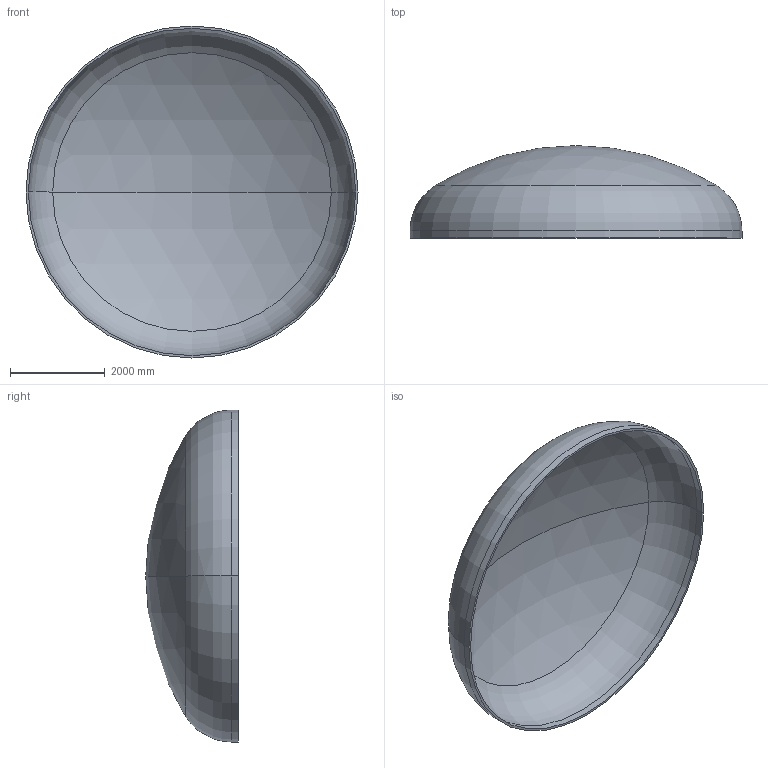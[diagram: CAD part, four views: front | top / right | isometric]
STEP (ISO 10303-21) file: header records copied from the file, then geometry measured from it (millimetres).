
FILE_DESCRIPTION (( 'STEP AP203' ), '1' );
FILE_NAME ('DIN 28013 Korbbogenform_-_Boden DIN 28013 - 7000 x 150 - I - s=49.step', '2016-07-04T10:47:57', ( '' ), ( '' ), 'SwSTEP 2.0', 'SolidWorks 2013', '' );
FILE_SCHEMA (( 'CONFIG_CONTROL_DESIGN' ));
Length unit declared in the file: millimetre
Products named in the file (1): DIN 28013 Korbbogenform_-_Boden DIN 28013 - 7000 x 150 - I - s=49
Bounding box: 7000 x 1950.79 x 7000 mm (x, y, z)
Volume: 2749137308.3 mm3; surface area: 113284694.9 mm2
Topology: 1 solids, 1 shells, 13 faces, 24 edges, 14 vertices
Faces by surface type: torus 4, cylinder 4, sphere 4, plane 1
Entity records: 407 total; most frequent: DIRECTION 72, CARTESIAN_POINT 52, ORIENTED_EDGE 48, AXIS2_PLACEMENT_3D 34, EDGE_CURVE 24, CIRCLE 20, VERTEX_POINT 14, EDGE_LOOP 14
